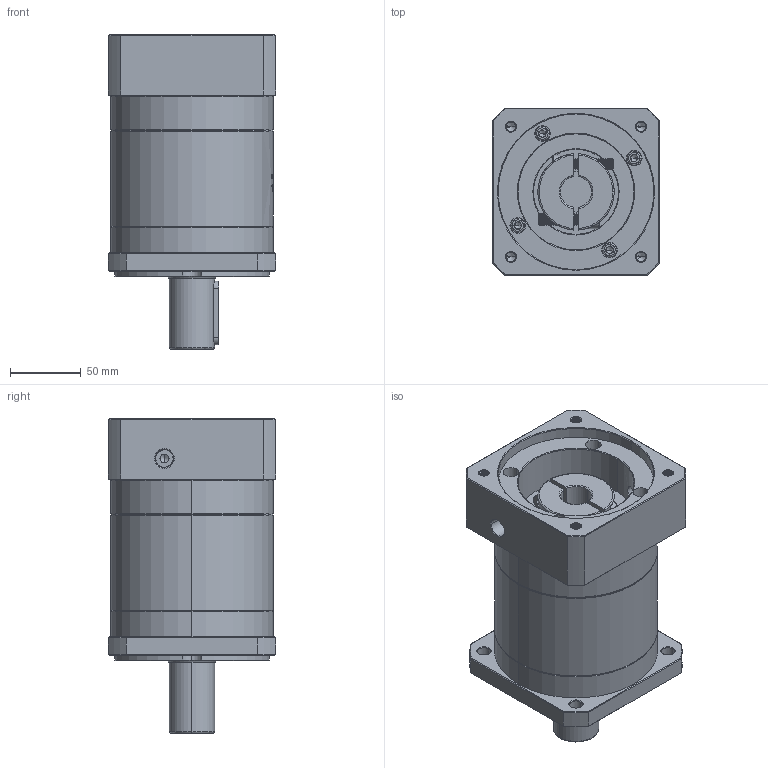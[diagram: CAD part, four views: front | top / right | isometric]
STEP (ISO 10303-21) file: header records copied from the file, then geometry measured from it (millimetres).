
FILE_DESCRIPTION (( 'STEP AP214' ), '1' );
FILE_NAME ('ZF120A-D32-L2-22-110-130-M8.step', '2023-03-07T09:33:49', ( '' ), ( '' ), 'SwSTEP 2.0', 'SolidWorks 2016', '' );
FILE_SCHEMA (( 'AUTOMOTIVE_DESIGN' ));
Length unit declared in the file: millimetre
Products named in the file (1): ZF120A-D32-L2-22-110-130-M8
Bounding box: 118 x 118 x 222 mm (x, y, z)
Volume: 1755020.9 mm3; surface area: 177024.7 mm2
Topology: 6 solids, 6 shells, 1960 faces, 5154 edges, 3292 vertices
Faces by surface type: plane 857, cylinder 422, bspline 341, cone 340
Entity records: 107778 total; most frequent: CARTESIAN_POINT 41664, ORIENTED_EDGE 10248, DIRECTION 7947, EDGE_CURVE 5124, VERTEX_POINT 3292, VECTOR 2759, LINE 2759, AXIS2_PLACEMENT_3D 2594
